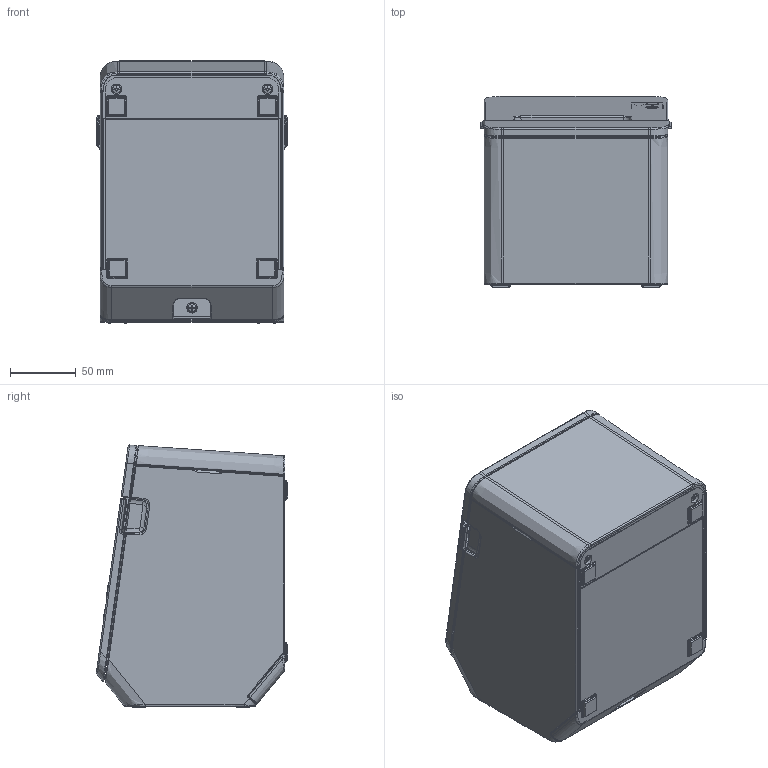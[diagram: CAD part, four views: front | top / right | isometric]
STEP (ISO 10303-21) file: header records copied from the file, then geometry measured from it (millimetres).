
FILE_DESCRIPTION((''),'2;1');
FILE_NAME('TM-T20IV_CLOSE','2025-01-15T16:42:09',('5012938'),(''),'CREO PARAMETRIC BY PTC INC, 2022281','CREO PARAMETRIC BY PTC INC, 2022281','');
FILE_SCHEMA(('AUTOMOTIVE_DESIGN { 1 0 10303 214 1 1 1 1 }'));
Products named in the file (1): TM-T20IV_CLOSE
Bounding box: 146 x 145.57 x 199.56 mm (x, y, z)
Surface area: 428308 mm2 (no closed solid volume)
Topology: 0 solids, 32 shells, 3668 faces, 10366 edges, 6696 vertices
Faces by surface type: plane 2131, cylinder 1022, bspline 242, torus 118, cone 105, extrusion 26, sphere 24
Entity records: 152732 total; most frequent: CARTESIAN_POINT 59303, ORIENTED_EDGE 19829, DIRECTION 18387, EDGE_CURVE 10362, VECTOR 7115, LINE 7089, VERTEX_POINT 6696, AXIS2_PLACEMENT_3D 5636
